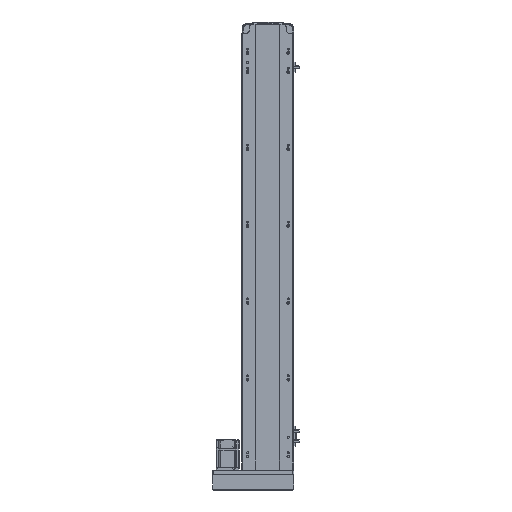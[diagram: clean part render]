
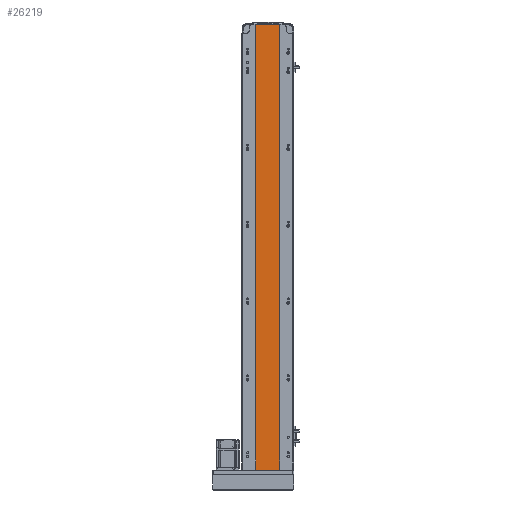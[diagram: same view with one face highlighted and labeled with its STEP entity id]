
A CAD part, front view. The second image highlights one B-rep face of the part: STEP entity #26219.
In plain terms, the highlighted planar face has unit normal (0, -1, 0).
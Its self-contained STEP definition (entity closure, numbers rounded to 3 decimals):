
#1430 = PLANE ( 'NONE',  #54235 ) ;
#7805 = LINE ( 'NONE', #54288, #17783 ) ;
#12303 = VERTEX_POINT ( 'NONE', #27604 ) ;
#15308 = CARTESIAN_POINT ( 'NONE',  ( 30., 1., 1159. ) ) ;
#15666 = LINE ( 'NONE', #30718, #49582 ) ;
#17783 = VECTOR ( 'NONE', #17863, 1000. ) ;
#17863 = DIRECTION ( 'NONE',  ( 1., 0., 0. ) ) ;
#18060 = DIRECTION ( 'NONE',  ( 0., 0., -1. ) ) ;
#23128 = VERTEX_POINT ( 'NONE', #58277 ) ;
#23663 = LINE ( 'NONE', #37458, #52493 ) ;
#23845 = CARTESIAN_POINT ( 'NONE',  ( -32., 1., 1159. ) ) ;
#24425 = DIRECTION ( 'NONE',  ( 0., 1., 0. ) ) ;
#24458 = ORIENTED_EDGE ( 'NONE', *, *, #57057, .F. ) ;
#25128 = VERTEX_POINT ( 'NONE', #52864 ) ;
#26219 = ADVANCED_FACE ( 'NONE', ( #47869 ), #1430, .F. ) ;
#27409 = LINE ( 'NONE', #33958, #51339 ) ;
#27604 = CARTESIAN_POINT ( 'NONE',  ( 30., 1., 0. ) ) ;
#28406 = ORIENTED_EDGE ( 'NONE', *, *, #57997, .F. ) ;
#30718 = CARTESIAN_POINT ( 'NONE',  ( 30., 1., 1159. ) ) ;
#33136 = DIRECTION ( 'NONE',  ( 1., 0., 0. ) ) ;
#33408 = DIRECTION ( 'NONE',  ( 0., 0., -1. ) ) ;
#33958 = CARTESIAN_POINT ( 'NONE',  ( -32., 1., 1159. ) ) ;
#37458 = CARTESIAN_POINT ( 'NONE',  ( -32., 1., 1159. ) ) ;
#37611 = DIRECTION ( 'NONE',  ( -1., 0., 0. ) ) ;
#39728 = EDGE_LOOP ( 'NONE', ( #48137, #28406, #24458, #51923 ) ) ;
#41301 = EDGE_CURVE ( 'NONE', #23128, #12303, #7805, .T. ) ;
#47869 = FACE_OUTER_BOUND ( 'NONE', #39728, .T. ) ;
#48137 = ORIENTED_EDGE ( 'NONE', *, *, #41301, .T. ) ;
#49582 = VECTOR ( 'NONE', #18060, 1000. ) ;
#50862 = EDGE_CURVE ( 'NONE', #25128, #23128, #27409, .T. ) ;
#51339 = VECTOR ( 'NONE', #33408, 1000. ) ;
#51923 = ORIENTED_EDGE ( 'NONE', *, *, #50862, .T. ) ;
#52493 = VECTOR ( 'NONE', #33136, 1000. ) ;
#52864 = CARTESIAN_POINT ( 'NONE',  ( -32., 1., 1159. ) ) ;
#54235 = AXIS2_PLACEMENT_3D ( 'NONE', #23845, #24425, #37611 ) ;
#54288 = CARTESIAN_POINT ( 'NONE',  ( -32., 1., 0. ) ) ;
#57057 = EDGE_CURVE ( 'NONE', #25128, #57793, #23663, .T. ) ;
#57793 = VERTEX_POINT ( 'NONE', #15308 ) ;
#57997 = EDGE_CURVE ( 'NONE', #57793, #12303, #15666, .T. ) ;
#58277 = CARTESIAN_POINT ( 'NONE',  ( -32., 1., 0. ) ) ;
